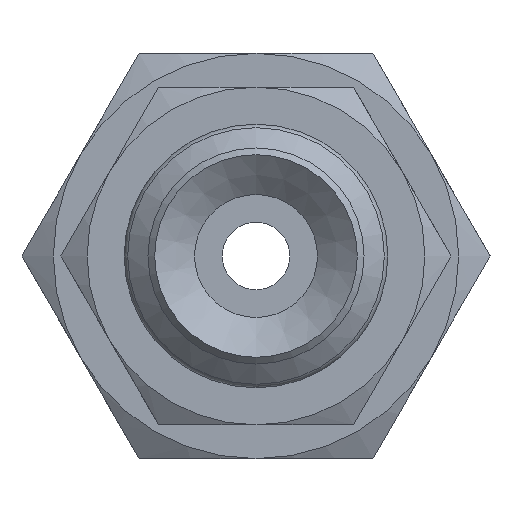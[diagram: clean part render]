
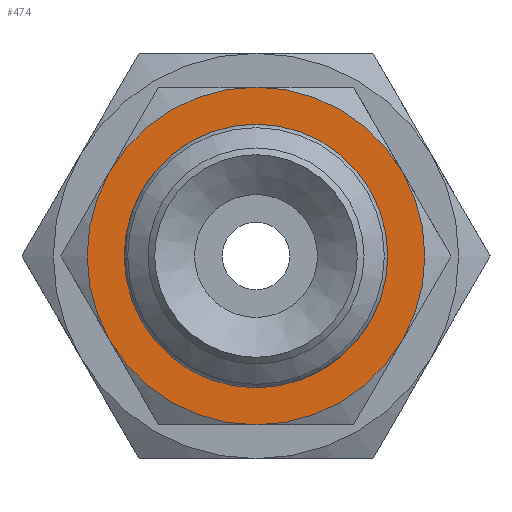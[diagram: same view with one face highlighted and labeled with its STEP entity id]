
A CAD part, front view. The second image highlights one B-rep face of the part: STEP entity #474.
In plain terms, the highlighted planar face has unit normal (0, -1, 0).
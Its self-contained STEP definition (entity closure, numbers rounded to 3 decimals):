
#474=ADVANCED_FACE('',(#622,#623),#624,.T.);
#622=FACE_BOUND('',#925,.T.);
#623=FACE_OUTER_BOUND('',#926,.T.);
#624=PLANE('',#927);
#925=EDGE_LOOP('',(#1312));
#926=EDGE_LOOP('',(#1313,#1314,#1315,#1316,#1317,#1318));
#927=AXIS2_PLACEMENT_3D('',#1319,#1320,#1321);
#1312=ORIENTED_EDGE('',*,*,#1998,.F.);
#1313=ORIENTED_EDGE('',*,*,#1972,.T.);
#1314=ORIENTED_EDGE('',*,*,#2006,.T.);
#1315=ORIENTED_EDGE('',*,*,#1986,.T.);
#1316=ORIENTED_EDGE('',*,*,#1988,.T.);
#1317=ORIENTED_EDGE('',*,*,#2007,.T.);
#1318=ORIENTED_EDGE('',*,*,#2008,.T.);
#1319=CARTESIAN_POINT('',(2.0,0.,0.0));
#1320=DIRECTION('',(0.0,-1.0,0.0));
#1321=DIRECTION('',(0.0,0.0,-1.0));
#1972=EDGE_CURVE('',#2184,#2190,#2192,.T.);
#1986=EDGE_CURVE('',#2215,#2208,#2217,.T.);
#1988=EDGE_CURVE('',#2208,#2218,#2220,.T.);
#1998=EDGE_CURVE('',#2234,#2234,#2235,.T.);
#2006=EDGE_CURVE('',#2190,#2215,#2249,.T.);
#2007=EDGE_CURVE('',#2218,#2167,#2250,.T.);
#2008=EDGE_CURVE('',#2167,#2184,#2251,.T.);
#2167=VERTEX_POINT('',#2525);
#2184=VERTEX_POINT('',#2555);
#2190=VERTEX_POINT('',#2568);
#2192=CIRCLE('',#2572,5.0);
#2208=VERTEX_POINT('',#2600);
#2215=VERTEX_POINT('',#2614);
#2217=CIRCLE('',#2618,5.0);
#2218=VERTEX_POINT('',#2619);
#2220=CIRCLE('',#2623,5.0);
#2234=VERTEX_POINT('',#2642);
#2235=CIRCLE('',#2643,2.0);
#2249=CIRCLE('',#2659,5.0);
#2250=CIRCLE('',#2660,5.0);
#2251=CIRCLE('',#2661,5.0);
#2525=CARTESIAN_POINT('',(-4.33,0.0,-2.5));
#2555=CARTESIAN_POINT('',(0.0,0.0,-5.0));
#2568=CARTESIAN_POINT('',(4.33,0.0,-2.5));
#2572=AXIS2_PLACEMENT_3D('',#3253,#3254,#3255);
#2600=CARTESIAN_POINT('',(0.0,0.0,5.0));
#2614=CARTESIAN_POINT('',(4.33,0.0,2.5));
#2618=AXIS2_PLACEMENT_3D('',#3262,#3263,#3264);
#2619=CARTESIAN_POINT('',(-4.33,0.,2.5));
#2623=AXIS2_PLACEMENT_3D('',#3265,#3266,#3267);
#2642=CARTESIAN_POINT('',(0.0,0.,-2.0));
#2643=AXIS2_PLACEMENT_3D('',#3287,#3288,#3289);
#2659=AXIS2_PLACEMENT_3D('',#3308,#3309,#3310);
#2660=AXIS2_PLACEMENT_3D('',#3311,#3312,#3313);
#2661=AXIS2_PLACEMENT_3D('',#3314,#3315,#3316);
#3253=CARTESIAN_POINT('',(0.0,0.,0.0));
#3254=DIRECTION('',(0.0,-1.0,0.0));
#3255=DIRECTION('',(0.0,0.0,-1.0));
#3262=CARTESIAN_POINT('',(0.0,0.,0.0));
#3263=DIRECTION('',(0.0,-1.0,0.0));
#3264=DIRECTION('',(0.0,0.0,-1.0));
#3265=CARTESIAN_POINT('',(0.0,0.,0.0));
#3266=DIRECTION('',(0.0,-1.0,0.0));
#3267=DIRECTION('',(0.0,0.0,-1.0));
#3287=CARTESIAN_POINT('',(0.0,0.,0.0));
#3288=DIRECTION('',(0.0,-1.0,0.0));
#3289=DIRECTION('',(0.0,0.0,-1.0));
#3308=CARTESIAN_POINT('',(0.0,0.,0.0));
#3309=DIRECTION('',(0.0,-1.0,0.0));
#3310=DIRECTION('',(0.0,0.0,-1.0));
#3311=CARTESIAN_POINT('',(0.0,0.,0.0));
#3312=DIRECTION('',(0.0,-1.0,0.0));
#3313=DIRECTION('',(0.0,0.0,-1.0));
#3314=CARTESIAN_POINT('',(0.0,0.,0.0));
#3315=DIRECTION('',(0.0,-1.0,0.0));
#3316=DIRECTION('',(0.0,0.0,-1.0));
